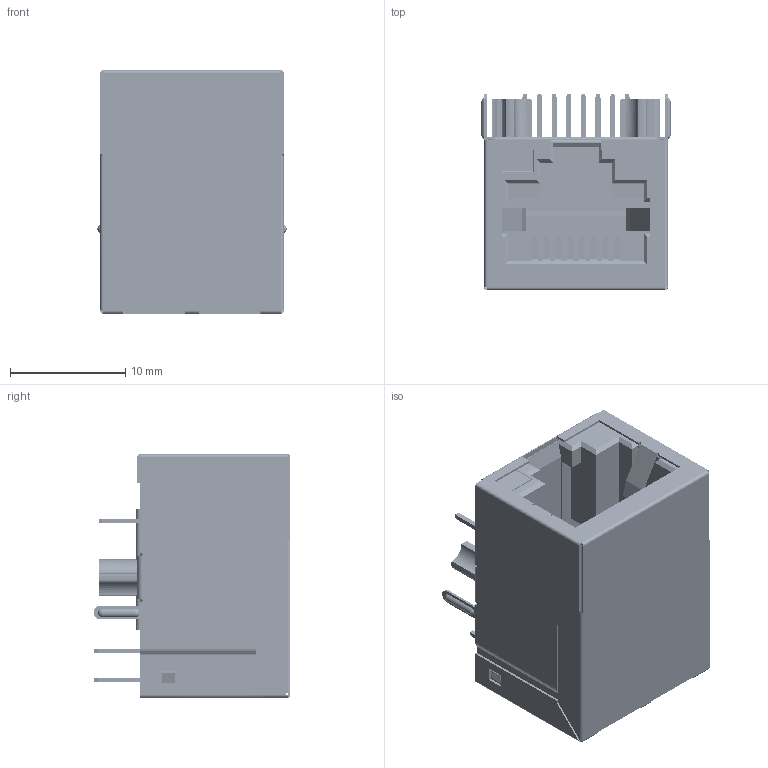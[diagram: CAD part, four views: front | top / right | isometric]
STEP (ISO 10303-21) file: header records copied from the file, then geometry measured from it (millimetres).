
FILE_DESCRIPTION((''),'2;1');
FILE_NAME('DGKYD111B002BA2A1D_ASM','2019-08-14T',('Administrator'),(''),'PRO/ENGINEER BY PARAMETRIC TECHNOLOGY CORPORATION, 2008380','PRO/ENGINEER BY PARAMETRIC TECHNOLOGY CORPORATION, 2008380','');
FILE_SCHEMA(('CONFIG_CONTROL_DESIGN'));
Length unit declared in the file: millimetre
Products named in the file (33): MANIFOLD_SOLID_BREP_10022; MANIFOLD_SOLID_BREP_10023; MANIFOLD_SOLID_BREP_10024; MANIFOLD_SOLID_BREP_10026; MANIFOLD_SOLID_BREP_10027; MANIFOLD_SOLID_BREP_10028; MANIFOLD_SOLID_BREP_10029; MANIFOLD_SOLID_BREP_10030; MANIFOLD_SOLID_BREP_10031; MANIFOLD_SOLID_BREP_10032; MANIFOLD_SOLID_BREP_10034; MANIFOLD_SOLID_BREP_10035; MANIFOLD_SOLID_BREP_10036; MANIFOLD_SOLID_BREP_10037; MANIFOLD_SOLID_BREP_10038; MANIFOLD_SOLID_BREP_10039; MANIFOLD_SOLID_BREP_10040; JIAZI_04_ASM_ASM; MANIFOLD_SOLID_BREP_10042; MANIFOLD_SOLID_BREP_10043; MANIFOLD_SOLID_BREP_10044; CIZHU_ASM_ASM; _DIANLUBAN_04_BODY; DIANLUBAN_04_BODY_ASM_ASM; WAIKE_04_03; TONGKE_04_BODY_ASM_ASM; LED_04_04; LED_04_PART_ASM_ASM; NEIKE_04__07; SULIAOKE_04_BODY_ASM_ASM; ASSEMBLY_04_ASM_ASM; 21_30_ASSEMBLY_3D_ASM_ASM; DGKYD111B002BA2A1D_ASM
Assembly tree (34 placements, depth 6):
  DGKYD111B002BA2A1D_ASM
    21_30_ASSEMBLY_3D_ASM_ASM
      ASSEMBLY_04_ASM_ASM
        JIAZI_04_ASM_ASM
          MANIFOLD_SOLID_BREP_10022
          MANIFOLD_SOLID_BREP_10023
          MANIFOLD_SOLID_BREP_10024
          MANIFOLD_SOLID_BREP_10026
          MANIFOLD_SOLID_BREP_10027
          MANIFOLD_SOLID_BREP_10028
          MANIFOLD_SOLID_BREP_10029
          MANIFOLD_SOLID_BREP_10030
          MANIFOLD_SOLID_BREP_10031
          MANIFOLD_SOLID_BREP_10032
          MANIFOLD_SOLID_BREP_10034
          MANIFOLD_SOLID_BREP_10035
          MANIFOLD_SOLID_BREP_10036
          MANIFOLD_SOLID_BREP_10037
          MANIFOLD_SOLID_BREP_10038
          MANIFOLD_SOLID_BREP_10039
          MANIFOLD_SOLID_BREP_10040
        DIANLUBAN_04_BODY_ASM_ASM
          CIZHU_ASM_ASM  x2
            MANIFOLD_SOLID_BREP_10042
            MANIFOLD_SOLID_BREP_10043
            MANIFOLD_SOLID_BREP_10044
          _DIANLUBAN_04_BODY
        TONGKE_04_BODY_ASM_ASM
          WAIKE_04_03
        LED_04_PART_ASM_ASM
          LED_04_04  x2
        SULIAOKE_04_BODY_ASM_ASM
          NEIKE_04__07
Bounding box: 16.44 x 17.1 x 21.15 mm (x, y, z)
Volume: 2133.4 mm3; surface area: 7771.2 mm2
Topology: 28 solids, 28 shells, 3729 faces, 10046 edges, 6350 vertices
Faces by surface type: torus 2144, plane 955, cylinder 578, extrusion 48, sphere 4
Entity records: 83926 total; most frequent: CARTESIAN_POINT 18391, DIRECTION 15061, ORIENTED_EDGE 13342, EDGE_CURVE 6671, AXIS2_PLACEMENT_3D 6023, VERTEX_POINT 4263, CIRCLE 3536, VECTOR 3015
